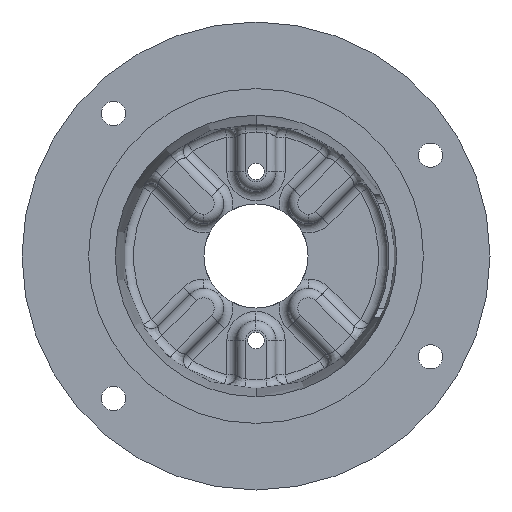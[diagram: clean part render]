
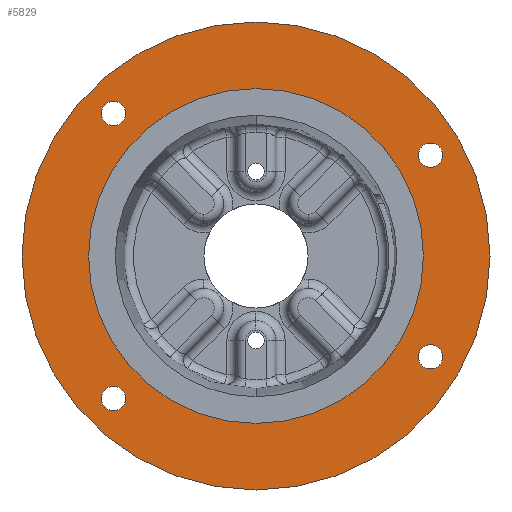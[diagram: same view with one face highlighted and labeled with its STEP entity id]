
A CAD part, front view. The second image highlights one B-rep face of the part: STEP entity #5829.
In plain terms, the highlighted planar face has unit normal (0, -1, 0).
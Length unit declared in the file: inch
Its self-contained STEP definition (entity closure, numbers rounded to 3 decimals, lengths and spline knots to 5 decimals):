
#26 = AXIS2_PLACEMENT_3D ( 'NONE', #4486, #4483, #4481 ) ;
#31 = ORIENTED_EDGE ( 'NONE', *, *, #1932, .F. ) ;
#60 = VERTEX_POINT ( 'NONE', #2040 ) ;
#237 = DIRECTION ( 'NONE',  ( 0., 0., -1. ) ) ;
#239 = DIRECTION ( 'NONE',  ( 0., -1., 0. ) ) ;
#249 = CARTESIAN_POINT ( 'NONE',  ( 3.35585, 0., -1.9375 ) ) ;
#258 = CIRCLE ( 'NONE', #1966, 0.23437 ) ;
#429 = ORIENTED_EDGE ( 'NONE', *, *, #785, .T. ) ;
#432 = FACE_OUTER_BOUND ( 'NONE', #3437, .T. ) ;
#441 = DIRECTION ( 'NONE',  ( 0., 0., -1. ) ) ;
#444 = DIRECTION ( 'NONE',  ( 0., -1., 0. ) ) ;
#447 = CARTESIAN_POINT ( 'NONE',  ( 3.35585, 0., 1.9375 ) ) ;
#569 = FACE_BOUND ( 'NONE', #1962, .T. ) ;
#636 = DIRECTION ( 'NONE',  ( 0., 0., -1. ) ) ;
#645 = DIRECTION ( 'NONE',  ( 0., -1., 0. ) ) ;
#651 = CARTESIAN_POINT ( 'NONE',  ( 3.35585, 0., -1.9375 ) ) ;
#701 = AXIS2_PLACEMENT_3D ( 'NONE', #4314, #4284, #4258 ) ;
#706 = DIRECTION ( 'NONE',  ( 0., 0., 1. ) ) ;
#727 = PLANE ( 'NONE',  #3144 ) ;
#733 = CIRCLE ( 'NONE', #4181, 0.23438 ) ;
#785 = EDGE_CURVE ( 'NONE', #60, #3717, #5393, .T. ) ;
#787 = CARTESIAN_POINT ( 'NONE',  ( -4.5, 0., 0. ) ) ;
#812 = EDGE_CURVE ( 'NONE', #942, #2097, #5235, .T. ) ;
#827 = DIRECTION ( 'NONE',  ( 0., 1., 0. ) ) ;
#889 = VERTEX_POINT ( 'NONE', #3982 ) ;
#942 = VERTEX_POINT ( 'NONE', #3849 ) ;
#1001 = ORIENTED_EDGE ( 'NONE', *, *, #5651, .T. ) ;
#1189 = EDGE_CURVE ( 'NONE', #4669, #889, #258, .T. ) ;
#1192 = AXIS2_PLACEMENT_3D ( 'NONE', #651, #645, #636 ) ;
#1363 = ORIENTED_EDGE ( 'NONE', *, *, #1894, .F. ) ;
#1365 = AXIS2_PLACEMENT_3D ( 'NONE', #4147, #4137, #4121 ) ;
#1494 = DIRECTION ( 'NONE',  ( 0., -1., 0. ) ) ;
#1512 = CARTESIAN_POINT ( 'NONE',  ( 0., 0., 0. ) ) ;
#1515 = EDGE_CURVE ( 'NONE', #2968, #4994, #4801, .T. ) ;
#1522 = CARTESIAN_POINT ( 'NONE',  ( 3.35585, 0., -1.70312 ) ) ;
#1575 = EDGE_CURVE ( 'NONE', #6252, #4634, #733, .T. ) ;
#1613 = EDGE_CURVE ( 'NONE', #4994, #2968, #1876, .T. ) ;
#1712 = ORIENTED_EDGE ( 'NONE', *, *, #1515, .F. ) ;
#1713 = CIRCLE ( 'NONE', #701, 0.23438 ) ;
#1749 = FACE_BOUND ( 'NONE', #2903, .T. ) ;
#1784 = EDGE_CURVE ( 'NONE', #889, #4669, #5018, .T. ) ;
#1798 = EDGE_LOOP ( 'NONE', ( #5773, #1712 ) ) ;
#1876 = CIRCLE ( 'NONE', #5443, 0.23438 ) ;
#1894 = EDGE_CURVE ( 'NONE', #2097, #942, #5595, .T. ) ;
#1923 = EDGE_CURVE ( 'NONE', #4634, #6252, #1713, .T. ) ;
#1932 = EDGE_CURVE ( 'NONE', #5589, #2578, #5434, .T. ) ;
#1962 = EDGE_LOOP ( 'NONE', ( #1363, #6141 ) ) ;
#1966 = AXIS2_PLACEMENT_3D ( 'NONE', #2845, #2838, #2833 ) ;
#1986 = ORIENTED_EDGE ( 'NONE', *, *, #1575, .F. ) ;
#2040 = CARTESIAN_POINT ( 'NONE',  ( 0., 0., 4.5 ) ) ;
#2097 = VERTEX_POINT ( 'NONE', #3114 ) ;
#2122 = CIRCLE ( 'NONE', #5731, 3.2195 ) ;
#2201 = CARTESIAN_POINT ( 'NONE',  ( -2.74004, 0., -2.50566 ) ) ;
#2239 = CARTESIAN_POINT ( 'NONE',  ( 0., 0., -3.2195 ) ) ;
#2578 = VERTEX_POINT ( 'NONE', #5702 ) ;
#2742 = EDGE_LOOP ( 'NONE', ( #1986, #3660 ) ) ;
#2833 = DIRECTION ( 'NONE',  ( 0., 0., -1. ) ) ;
#2838 = DIRECTION ( 'NONE',  ( 0., -1., 0. ) ) ;
#2845 = CARTESIAN_POINT ( 'NONE',  ( -2.74004, 0., -2.74004 ) ) ;
#2903 = EDGE_LOOP ( 'NONE', ( #31, #6029 ) ) ;
#2968 = VERTEX_POINT ( 'NONE', #1522 ) ;
#3087 = AXIS2_PLACEMENT_3D ( 'NONE', #5176, #5073, #5273 ) ;
#3114 = CARTESIAN_POINT ( 'NONE',  ( -2.74004, 0., 2.50566 ) ) ;
#3144 = AXIS2_PLACEMENT_3D ( 'NONE', #787, #827, #706 ) ;
#3202 = EDGE_LOOP ( 'NONE', ( #5749, #3386 ) ) ;
#3386 = ORIENTED_EDGE ( 'NONE', *, *, #1189, .F. ) ;
#3437 = EDGE_LOOP ( 'NONE', ( #1001, #429 ) ) ;
#3571 = CARTESIAN_POINT ( 'NONE',  ( 3.35585, 0., 2.17188 ) ) ;
#3660 = ORIENTED_EDGE ( 'NONE', *, *, #1923, .F. ) ;
#3717 = VERTEX_POINT ( 'NONE', #4556 ) ;
#3849 = CARTESIAN_POINT ( 'NONE',  ( -2.74004, 0., 2.97441 ) ) ;
#3974 = CARTESIAN_POINT ( 'NONE',  ( 3.35585, 0., 1.70313 ) ) ;
#3982 = CARTESIAN_POINT ( 'NONE',  ( -2.74004, 0., -2.97441 ) ) ;
#4121 = DIRECTION ( 'NONE',  ( 0., 0., -1. ) ) ;
#4137 = DIRECTION ( 'NONE',  ( 0., -1., 0. ) ) ;
#4147 = CARTESIAN_POINT ( 'NONE',  ( 0., 0., 0. ) ) ;
#4181 = AXIS2_PLACEMENT_3D ( 'NONE', #447, #444, #441 ) ;
#4258 = DIRECTION ( 'NONE',  ( 0., 0., -1. ) ) ;
#4267 = DIRECTION ( 'NONE',  ( 0., 0., -1. ) ) ;
#4279 = DIRECTION ( 'NONE',  ( 0., -1., 0. ) ) ;
#4284 = DIRECTION ( 'NONE',  ( 0., -1., 0. ) ) ;
#4285 = CARTESIAN_POINT ( 'NONE',  ( -2.74004, 0., 2.74004 ) ) ;
#4314 = CARTESIAN_POINT ( 'NONE',  ( 3.35585, 0., 1.9375 ) ) ;
#4377 = FACE_BOUND ( 'NONE', #1798, .T. ) ;
#4481 = DIRECTION ( 'NONE',  ( 0., 0., -1. ) ) ;
#4483 = DIRECTION ( 'NONE',  ( 0., -1., 0. ) ) ;
#4486 = CARTESIAN_POINT ( 'NONE',  ( 0., 0., 0. ) ) ;
#4510 = FACE_BOUND ( 'NONE', #2742, .T. ) ;
#4532 = AXIS2_PLACEMENT_3D ( 'NONE', #4285, #4279, #4267 ) ;
#4548 = AXIS2_PLACEMENT_3D ( 'NONE', #6117, #6100, #6080 ) ;
#4555 = DIRECTION ( 'NONE',  ( 0., 0., -1. ) ) ;
#4556 = CARTESIAN_POINT ( 'NONE',  ( 0., 0., -4.5 ) ) ;
#4562 = DIRECTION ( 'NONE',  ( 0., -1., 0. ) ) ;
#4606 = CARTESIAN_POINT ( 'NONE',  ( -2.74004, 0., 2.74004 ) ) ;
#4634 = VERTEX_POINT ( 'NONE', #3571 ) ;
#4662 = CIRCLE ( 'NONE', #4548, 4.5 ) ;
#4669 = VERTEX_POINT ( 'NONE', #2201 ) ;
#4714 = CARTESIAN_POINT ( 'NONE',  ( 3.35585, 0., -2.17187 ) ) ;
#4801 = CIRCLE ( 'NONE', #1192, 0.23438 ) ;
#4994 = VERTEX_POINT ( 'NONE', #4714 ) ;
#5018 = CIRCLE ( 'NONE', #3087, 0.23437 ) ;
#5073 = DIRECTION ( 'NONE',  ( 0., -1., 0. ) ) ;
#5100 = AXIS2_PLACEMENT_3D ( 'NONE', #4606, #4562, #4555 ) ;
#5176 = CARTESIAN_POINT ( 'NONE',  ( -2.74004, 0., -2.74004 ) ) ;
#5235 = CIRCLE ( 'NONE', #4532, 0.23438 ) ;
#5244 = EDGE_CURVE ( 'NONE', #2578, #5589, #2122, .T. ) ;
#5273 = DIRECTION ( 'NONE',  ( 0., 0., -1. ) ) ;
#5393 = CIRCLE ( 'NONE', #26, 4.5 ) ;
#5434 = CIRCLE ( 'NONE', #1365, 3.2195 ) ;
#5443 = AXIS2_PLACEMENT_3D ( 'NONE', #249, #239, #237 ) ;
#5544 = DIRECTION ( 'NONE',  ( 0., 0., -1. ) ) ;
#5589 = VERTEX_POINT ( 'NONE', #2239 ) ;
#5595 = CIRCLE ( 'NONE', #5100, 0.23438 ) ;
#5628 = FACE_BOUND ( 'NONE', #3202, .T. ) ;
#5651 = EDGE_CURVE ( 'NONE', #3717, #60, #4662, .T. ) ;
#5702 = CARTESIAN_POINT ( 'NONE',  ( 0., 0., 3.2195 ) ) ;
#5731 = AXIS2_PLACEMENT_3D ( 'NONE', #1512, #1494, #5544 ) ;
#5749 = ORIENTED_EDGE ( 'NONE', *, *, #1784, .F. ) ;
#5773 = ORIENTED_EDGE ( 'NONE', *, *, #1613, .F. ) ;
#5829 = ADVANCED_FACE ( 'NONE', ( #4510, #4377, #5628, #569, #1749, #432 ), #727, .F. ) ;
#6029 = ORIENTED_EDGE ( 'NONE', *, *, #5244, .F. ) ;
#6080 = DIRECTION ( 'NONE',  ( 0., 0., -1. ) ) ;
#6100 = DIRECTION ( 'NONE',  ( 0., -1., 0. ) ) ;
#6117 = CARTESIAN_POINT ( 'NONE',  ( 0., 0., 0. ) ) ;
#6141 = ORIENTED_EDGE ( 'NONE', *, *, #812, .F. ) ;
#6252 = VERTEX_POINT ( 'NONE', #3974 ) ;
